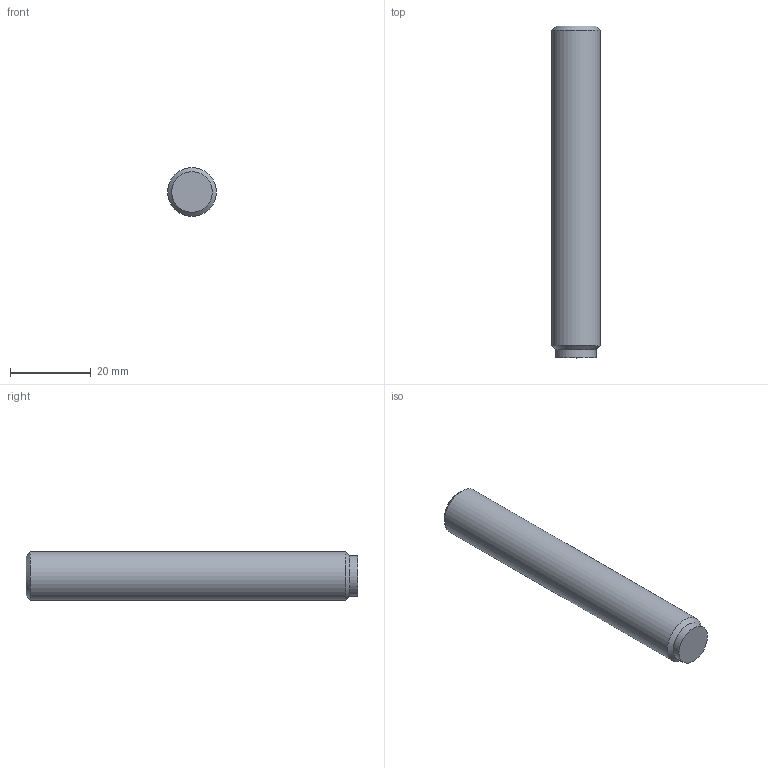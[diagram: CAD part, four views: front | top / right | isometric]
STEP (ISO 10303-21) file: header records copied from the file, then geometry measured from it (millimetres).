
FILE_DESCRIPTION( ( 'STEP AP203' ), '1' );
FILE_NAME( 'C:/Temp/Ganter_Step_05_03_2020/data/3_2/gn913_3/Grub screw GN 913.3-M12-80-MS.stp', '2020-03-13T05:35:54', ( 'License CC BY-ND 4.0' ), ( 'CADENAS' ), ' ', 'PARTsolutions', ' ' );
FILE_SCHEMA( ( 'CONFIG_CONTROL_DESIGN' ) );
Length unit declared in the file: millimetre
Products named in the file (1): _Grub screw GN 913.3-M12-80-MS
Bounding box: 12 x 82 x 12 mm (x, y, z)
Volume: 8914.6 mm3; surface area: 3425.4 mm2
Topology: 1 solids, 1 shells, 14 faces, 28 edges, 18 vertices
Faces by surface type: plane 10, cylinder 2, cone 2
Full cylindrical faces by diameter (mm): 10 x1, 12 x1
Entity records: 386 total; most frequent: DIRECTION 60, CARTESIAN_POINT 57, ORIENTED_EDGE 48, EDGE_CURVE 24, AXIS2_PLACEMENT_3D 21, EDGE_LOOP 20, VERTEX_POINT 18, LINE 18
